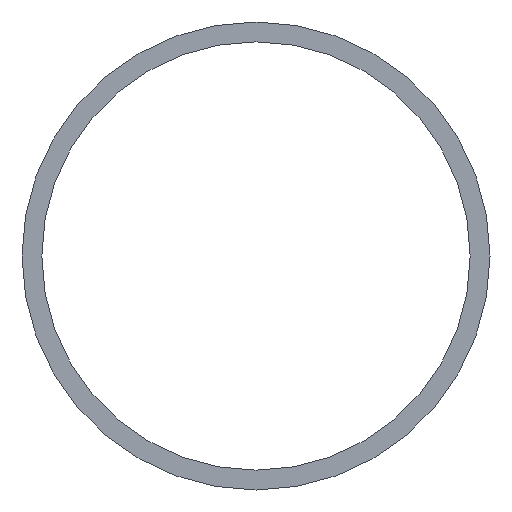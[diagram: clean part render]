
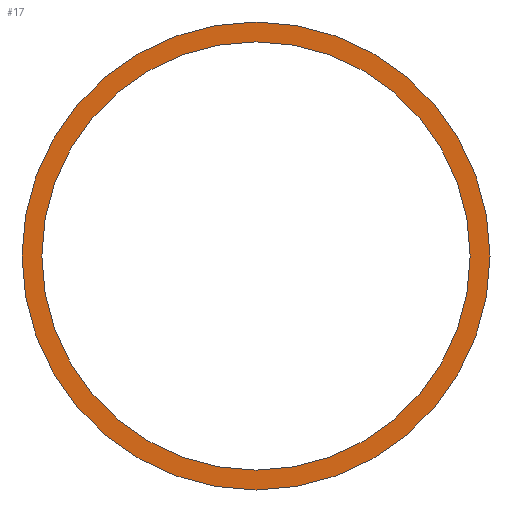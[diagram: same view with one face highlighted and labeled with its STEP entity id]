
A CAD part, front view. The second image highlights one B-rep face of the part: STEP entity #17.
In plain terms, the highlighted planar face has unit normal (0, -1, 0).
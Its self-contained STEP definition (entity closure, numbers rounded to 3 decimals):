
#17 = ADVANCED_FACE('',(#18,#54),#31,.F.);
#18 = FACE_BOUND('',#19,.T.);
#19 = EDGE_LOOP('',(#20));
#20 = ORIENTED_EDGE('',*,*,#21,.T.);
#21 = EDGE_CURVE('',#22,#22,#24,.T.);
#22 = VERTEX_POINT('',#23);
#23 = CARTESIAN_POINT('',(151.,338.,0.));
#24 = SURFACE_CURVE('',#25,(#30,#42),.PCURVE_S1.);
#25 = CIRCLE('',#26,151.);
#26 = AXIS2_PLACEMENT_3D('',#27,#28,#29);
#27 = CARTESIAN_POINT('',(0.,338.,0.));
#28 = DIRECTION('',(-0.,1.,0.));
#29 = DIRECTION('',(1.,0.,0.));
#30 = PCURVE('',#31,#36);
#31 = PLANE('',#32);
#32 = AXIS2_PLACEMENT_3D('',#33,#34,#35);
#33 = CARTESIAN_POINT('',(0.,338.,0.));
#34 = DIRECTION('',(0.,1.,0.));
#35 = DIRECTION('',(1.,-0.,-0.));
#36 = DEFINITIONAL_REPRESENTATION('',(#37),#41);
#37 = CIRCLE('',#38,151.);
#38 = AXIS2_PLACEMENT_2D('',#39,#40);
#39 = CARTESIAN_POINT('',(0.,0.));
#40 = DIRECTION('',(1.,-0.));
#41 = ( GEOMETRIC_REPRESENTATION_CONTEXT(2) 
PARAMETRIC_REPRESENTATION_CONTEXT() REPRESENTATION_CONTEXT('2D SPACE',''
  ) );
#42 = PCURVE('',#43,#48);
#43 = CYLINDRICAL_SURFACE('',#44,151.);
#44 = AXIS2_PLACEMENT_3D('',#45,#46,#47);
#45 = CARTESIAN_POINT('',(0.,339.6,0.));
#46 = DIRECTION('',(-0.,-1.,0.));
#47 = DIRECTION('',(1.,0.,0.));
#48 = DEFINITIONAL_REPRESENTATION('',(#49),#53);
#49 = LINE('',#50,#51);
#50 = CARTESIAN_POINT('',(-0.,1.6));
#51 = VECTOR('',#52,1.);
#52 = DIRECTION('',(-1.,0.));
#53 = ( GEOMETRIC_REPRESENTATION_CONTEXT(2) 
PARAMETRIC_REPRESENTATION_CONTEXT() REPRESENTATION_CONTEXT('2D SPACE',''
  ) );
#54 = FACE_BOUND('',#55,.T.);
#55 = EDGE_LOOP('',(#56));
#56 = ORIENTED_EDGE('',*,*,#57,.F.);
#57 = EDGE_CURVE('',#58,#58,#60,.T.);
#58 = VERTEX_POINT('',#59);
#59 = CARTESIAN_POINT('',(165.,338.,0.));
#60 = SURFACE_CURVE('',#61,(#66,#73),.PCURVE_S1.);
#61 = CIRCLE('',#62,165.);
#62 = AXIS2_PLACEMENT_3D('',#63,#64,#65);
#63 = CARTESIAN_POINT('',(0.,338.,0.));
#64 = DIRECTION('',(-0.,1.,0.));
#65 = DIRECTION('',(1.,0.,0.));
#66 = PCURVE('',#31,#67);
#67 = DEFINITIONAL_REPRESENTATION('',(#68),#72);
#68 = CIRCLE('',#69,165.);
#69 = AXIS2_PLACEMENT_2D('',#70,#71);
#70 = CARTESIAN_POINT('',(0.,0.));
#71 = DIRECTION('',(1.,-0.));
#72 = ( GEOMETRIC_REPRESENTATION_CONTEXT(2) 
PARAMETRIC_REPRESENTATION_CONTEXT() REPRESENTATION_CONTEXT('2D SPACE',''
  ) );
#73 = PCURVE('',#74,#79);
#74 = CYLINDRICAL_SURFACE('',#75,165.);
#75 = AXIS2_PLACEMENT_3D('',#76,#77,#78);
#76 = CARTESIAN_POINT('',(0.,338.,0.));
#77 = DIRECTION('',(0.,1.,0.));
#78 = DIRECTION('',(1.,0.,0.));
#79 = DEFINITIONAL_REPRESENTATION('',(#80),#84);
#80 = LINE('',#81,#82);
#81 = CARTESIAN_POINT('',(0.,0.));
#82 = VECTOR('',#83,1.);
#83 = DIRECTION('',(1.,0.));
#84 = ( GEOMETRIC_REPRESENTATION_CONTEXT(2) 
PARAMETRIC_REPRESENTATION_CONTEXT() REPRESENTATION_CONTEXT('2D SPACE',''
  ) );
